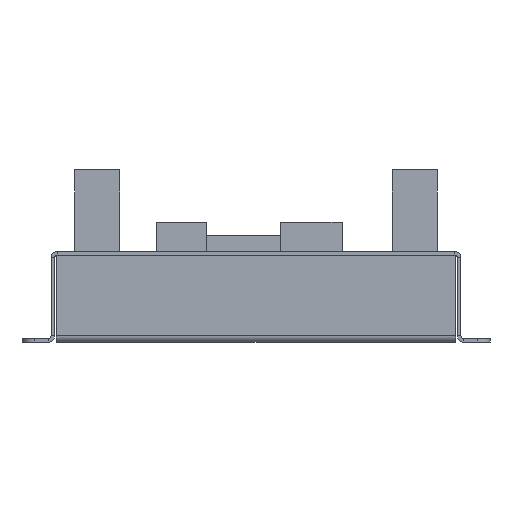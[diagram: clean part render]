
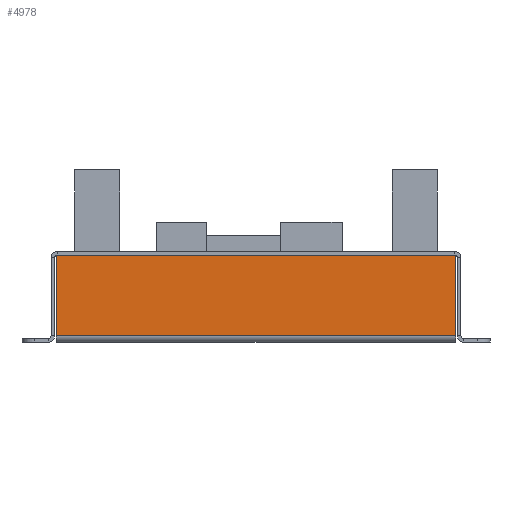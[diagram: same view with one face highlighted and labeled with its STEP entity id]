
A CAD part, left-side view. The second image highlights one B-rep face of the part: STEP entity #4978.
In plain terms, the highlighted planar face has unit normal (-1, 0, 0).
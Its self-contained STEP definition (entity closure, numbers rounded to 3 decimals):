
#79 = EDGE_LOOP ( 'NONE', ( #4043, #1308, #2366, #1616 ) ) ;
#542 = DIRECTION ( 'NONE',  ( 0., -1., 0. ) ) ;
#605 = LINE ( 'NONE', #2077, #4829 ) ;
#955 = CARTESIAN_POINT ( 'NONE',  ( -89., 24., -55. ) ) ;
#1130 = EDGE_CURVE ( 'NONE', #4840, #2917, #4253, .T. ) ;
#1258 = CARTESIAN_POINT ( 'NONE',  ( -89., 1.737, 55. ) ) ;
#1268 = DIRECTION ( 'NONE',  ( 0., 0., -1. ) ) ;
#1308 = ORIENTED_EDGE ( 'NONE', *, *, #1130, .F. ) ;
#1339 = PLANE ( 'NONE',  #4385 ) ;
#1520 = DIRECTION ( 'NONE',  ( 0., 0., -1. ) ) ;
#1582 = EDGE_CURVE ( 'NONE', #4135, #2917, #2924, .T. ) ;
#1604 = FACE_OUTER_BOUND ( 'NONE', #79, .T. ) ;
#1616 = ORIENTED_EDGE ( 'NONE', *, *, #2024, .T. ) ;
#2024 = EDGE_CURVE ( 'NONE', #2415, #4135, #605, .T. ) ;
#2048 = CARTESIAN_POINT ( 'NONE',  ( -89., 24., 55. ) ) ;
#2077 = CARTESIAN_POINT ( 'NONE',  ( -89., 24., 55. ) ) ;
#2079 = CARTESIAN_POINT ( 'NONE',  ( -89., 1.737, -55. ) ) ;
#2166 = DIRECTION ( 'NONE',  ( 1., 0., 0. ) ) ;
#2212 = VECTOR ( 'NONE', #1520, 1000. ) ;
#2254 = VECTOR ( 'NONE', #4482, 1000. ) ;
#2366 = ORIENTED_EDGE ( 'NONE', *, *, #4167, .F. ) ;
#2415 = VERTEX_POINT ( 'NONE', #2568 ) ;
#2568 = CARTESIAN_POINT ( 'NONE',  ( -89., 24., 55. ) ) ;
#2917 = VERTEX_POINT ( 'NONE', #2079 ) ;
#2924 = LINE ( 'NONE', #955, #4002 ) ;
#3244 = CARTESIAN_POINT ( 'NONE',  ( -89., 24., -55. ) ) ;
#3332 = LINE ( 'NONE', #2048, #2254 ) ;
#3377 = CARTESIAN_POINT ( 'NONE',  ( -89., 24., 55. ) ) ;
#3952 = CARTESIAN_POINT ( 'NONE',  ( -89., 1.737, 55. ) ) ;
#4002 = VECTOR ( 'NONE', #542, 1000. ) ;
#4043 = ORIENTED_EDGE ( 'NONE', *, *, #1582, .T. ) ;
#4135 = VERTEX_POINT ( 'NONE', #3244 ) ;
#4167 = EDGE_CURVE ( 'NONE', #2415, #4840, #3332, .T. ) ;
#4253 = LINE ( 'NONE', #3952, #2212 ) ;
#4385 = AXIS2_PLACEMENT_3D ( 'NONE', #3377, #2166, #5025 ) ;
#4482 = DIRECTION ( 'NONE',  ( 0., -1., 0. ) ) ;
#4829 = VECTOR ( 'NONE', #1268, 1000. ) ;
#4840 = VERTEX_POINT ( 'NONE', #1258 ) ;
#4978 = ADVANCED_FACE ( 'NONE', ( #1604 ), #1339, .F. ) ;
#5025 = DIRECTION ( 'NONE',  ( 0., 0., -1. ) ) ;
